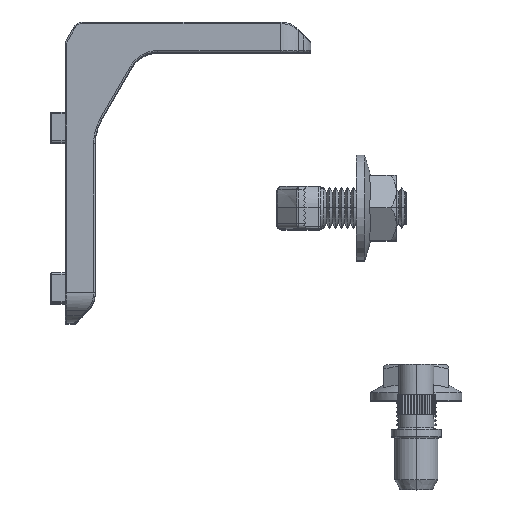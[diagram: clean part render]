
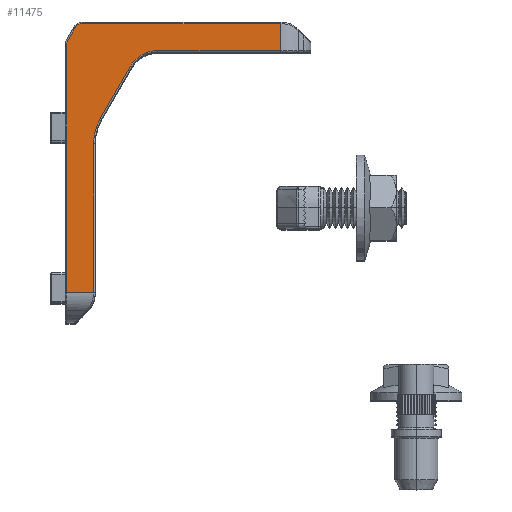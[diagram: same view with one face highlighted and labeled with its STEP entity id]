
A CAD part, top view. The second image highlights one B-rep face of the part: STEP entity #11475.
In plain terms, the highlighted planar face has unit normal (0, 0, 1).
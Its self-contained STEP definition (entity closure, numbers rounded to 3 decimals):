
#358 = CARTESIAN_POINT ( 'NONE',  ( 0.3, -4.536, 145. ) ) ;
#1768 = CARTESIAN_POINT ( 'NONE',  ( 0.528, -3.686, 145. ) ) ;
#4030 = VERTEX_POINT ( 'NONE', #135508 ) ;
#4598 = CARTESIAN_POINT ( 'NONE',  ( 0.378, -3.946, 145. ) ) ;
#4737 =( BOUNDED_CURVE ( )  B_SPLINE_CURVE ( 3, ( #95144, #84634, #43100, #116226 ),
 .UNSPECIFIED., .F., .F. ) 
 B_SPLINE_CURVE_WITH_KNOTS ( ( 4, 4 ),
 ( 0., 1. ),
 .UNSPECIFIED. ) 
 CURVE ( )  GEOMETRIC_REPRESENTATION_ITEM ( )  RATIONAL_B_SPLINE_CURVE ( ( 1., 0.911, 0.911, 1. ) ) 
 REPRESENTATION_ITEM ( '' )  );
#4861 = ORIENTED_EDGE ( 'NONE', *, *, #129784, .F. ) ;
#8316 = EDGE_CURVE ( 'NONE', #104079, #4030, #54481, .T. ) ;
#8971 = DIRECTION ( 'NONE',  ( 0., -1., 0. ) ) ;
#9731 =( BOUNDED_CURVE ( )  B_SPLINE_CURVE ( 3, ( #23862, #41475, #4598, #12024 ),
 .UNSPECIFIED., .F., .T. ) 
 B_SPLINE_CURVE_WITH_KNOTS ( ( 4, 4 ),
 ( 0., 1. ),
 .UNSPECIFIED. ) 
 CURVE ( )  GEOMETRIC_REPRESENTATION_ITEM ( )  RATIONAL_B_SPLINE_CURVE ( ( 1., 0.977, 0.977, 1. ) ) 
 REPRESENTATION_ITEM ( '' )  );
#11475 = ADVANCED_FACE ( 'NONE', ( #59647 ), #62868, .F. ) ;
#12024 = CARTESIAN_POINT ( 'NONE',  ( 0.528, -3.686, 145. ) ) ;
#12923 = CARTESIAN_POINT ( 'NONE',  ( 5.7, -53.929, 145. ) ) ;
#13303 = CARTESIAN_POINT ( 'NONE',  ( 3.464, -0.3, 145. ) ) ;
#15176 = VERTEX_POINT ( 'NONE', #86701 ) ;
#16303 = CARTESIAN_POINT ( 'NONE',  ( 0.3, -53.929, 145. ) ) ;
#16581 = ORIENTED_EDGE ( 'NONE', *, *, #31802, .F. ) ;
#19786 = EDGE_CURVE ( 'NONE', #135052, #64388, #9731, .T. ) ;
#20657 = VECTOR ( 'NONE', #123397, 1000. ) ;
#23862 = CARTESIAN_POINT ( 'NONE',  ( 0.3, -4.536, 145. ) ) ;
#27140 = LINE ( 'NONE', #56622, #106995 ) ;
#27920 = VECTOR ( 'NONE', #28146, 1000. ) ;
#28146 = DIRECTION ( 'NONE',  ( -1., 0., 0. ) ) ;
#31246 = CARTESIAN_POINT ( 'NONE',  ( 1.992, -1.15, 145. ) ) ;
#31802 = EDGE_CURVE ( 'NONE', #114550, #95243, #39457, .T. ) ;
#32792 = AXIS2_PLACEMENT_3D ( 'NONE', #54554, #54124, #53664 ) ;
#35767 = DIRECTION ( 'NONE',  ( 1., 0., 0. ) ) ;
#35773 = CARTESIAN_POINT ( 'NONE',  ( 42.929, -0.3, 145. ) ) ;
#36446 = CARTESIAN_POINT ( 'NONE',  ( 5.7, -22.449, 145. ) ) ;
#39457 =( BOUNDED_CURVE ( )  B_SPLINE_CURVE ( 3, ( #129078, #98816, #36446, #109376 ),
 .UNSPECIFIED., .F., .F. ) 
 B_SPLINE_CURVE_WITH_KNOTS ( ( 4, 4 ),
 ( 0., 1. ),
 .UNSPECIFIED. ) 
 CURVE ( )  GEOMETRIC_REPRESENTATION_ITEM ( )  RATIONAL_B_SPLINE_CURVE ( ( 1., 0.977, 0.977, 1. ) ) 
 REPRESENTATION_ITEM ( '' )  );
#40001 = CARTESIAN_POINT ( 'NONE',  ( 0.3, -60., 145. ) ) ;
#41475 = CARTESIAN_POINT ( 'NONE',  ( 0.3, -4.236, 145. ) ) ;
#43100 = CARTESIAN_POINT ( 'NONE',  ( 14.161, -6.853, 145. ) ) ;
#44854 = CARTESIAN_POINT ( 'NONE',  ( 5.7, -60., 145. ) ) ;
#48207 = EDGE_LOOP ( 'NONE', ( #67376, #119843, #49669, #93781, #132039, #73196, #89404, #117183, #4861, #16581, #117378, #59908 ) ) ;
#49669 = ORIENTED_EDGE ( 'NONE', *, *, #125848, .F. ) ;
#50458 = DIRECTION ( 'NONE',  ( 0., 1., 0. ) ) ;
#50530 = DIRECTION ( 'NONE',  ( -0.5, -0.866, 0. ) ) ;
#50796 = VERTEX_POINT ( 'NONE', #64967 ) ;
#51263 = VECTOR ( 'NONE', #8971, 1000. ) ;
#53078 = EDGE_CURVE ( 'NONE', #15176, #50796, #4737, .T. ) ;
#53582 = EDGE_CURVE ( 'NONE', #118287, #85708, #71522, .T. ) ;
#53664 = DIRECTION ( 'NONE',  ( -1., 0., 0. ) ) ;
#54124 = DIRECTION ( 'NONE',  ( 0., 0., -1. ) ) ;
#54481 = LINE ( 'NONE', #77411, #51263 ) ;
#54554 = CARTESIAN_POINT ( 'NONE',  ( 49., -60., 145. ) ) ;
#55450 = LINE ( 'NONE', #44854, #83218 ) ;
#56622 = CARTESIAN_POINT ( 'NONE',  ( 49., -0.3, 145. ) ) ;
#58870 = LINE ( 'NONE', #101058, #27920 ) ;
#59647 = FACE_OUTER_BOUND ( 'NONE', #48207, .T. ) ;
#59908 = ORIENTED_EDGE ( 'NONE', *, *, #53078, .F. ) ;
#60884 = EDGE_CURVE ( 'NONE', #123068, #135052, #68955, .T. ) ;
#61397 = EDGE_CURVE ( 'NONE', #74095, #123068, #58870, .T. ) ;
#62868 = PLANE ( 'NONE',  #32792 ) ;
#64388 = VERTEX_POINT ( 'NONE', #117140 ) ;
#64967 = CARTESIAN_POINT ( 'NONE',  ( 13.008, -8.85, 145. ) ) ;
#65839 = DIRECTION ( 'NONE',  ( 0., -1., 0. ) ) ;
#67376 = ORIENTED_EDGE ( 'NONE', *, *, #123119, .F. ) ;
#68955 = LINE ( 'NONE', #40001, #121278 ) ;
#69760 = EDGE_CURVE ( 'NONE', #50796, #114550, #106126, .T. ) ;
#71522 =( BOUNDED_CURVE ( )  B_SPLINE_CURVE ( 3, ( #31246, #72675, #135283, #104148 ),
 .UNSPECIFIED., .F., .F. ) 
 B_SPLINE_CURVE_WITH_KNOTS ( ( 4, 4 ),
 ( 0., 1. ),
 .UNSPECIFIED. ) 
 CURVE ( )  GEOMETRIC_REPRESENTATION_ITEM ( )  RATIONAL_B_SPLINE_CURVE ( ( 1., 0.911, 0.911, 1. ) ) 
 REPRESENTATION_ITEM ( '' )  );
#72675 = CARTESIAN_POINT ( 'NONE',  ( 2.303, -0.611, 145. ) ) ;
#73196 = ORIENTED_EDGE ( 'NONE', *, *, #19786, .F. ) ;
#74095 = VERTEX_POINT ( 'NONE', #12923 ) ;
#76918 = LINE ( 'NONE', #1768, #101377 ) ;
#77411 = CARTESIAN_POINT ( 'NONE',  ( 42.929, -60., 145. ) ) ;
#83218 = VECTOR ( 'NONE', #65839, 1000. ) ;
#84634 = CARTESIAN_POINT ( 'NONE',  ( 16.158, -5.7, 145. ) ) ;
#85708 = VERTEX_POINT ( 'NONE', #13303 ) ;
#86701 = CARTESIAN_POINT ( 'NONE',  ( 18.464, -5.7, 145. ) ) ;
#89404 = ORIENTED_EDGE ( 'NONE', *, *, #60884, .F. ) ;
#93781 = ORIENTED_EDGE ( 'NONE', *, *, #53582, .F. ) ;
#94825 = EDGE_CURVE ( 'NONE', #64388, #118287, #76918, .T. ) ;
#95144 = CARTESIAN_POINT ( 'NONE',  ( 18.464, -5.7, 145. ) ) ;
#95243 = VERTEX_POINT ( 'NONE', #119772 ) ;
#98816 = CARTESIAN_POINT ( 'NONE',  ( 6.171, -20.693, 145. ) ) ;
#100619 = LINE ( 'NONE', #112881, #20657 ) ;
#101058 = CARTESIAN_POINT ( 'NONE',  ( 49., -53.929, 145. ) ) ;
#101377 = VECTOR ( 'NONE', #126727, 1000. ) ;
#102701 = CARTESIAN_POINT ( 'NONE',  ( 7.08, -19.118, 145. ) ) ;
#104079 = VERTEX_POINT ( 'NONE', #35773 ) ;
#104148 = CARTESIAN_POINT ( 'NONE',  ( 3.464, -0.3, 145. ) ) ;
#106126 = LINE ( 'NONE', #123588, #134040 ) ;
#106995 = VECTOR ( 'NONE', #35767, 1000. ) ;
#109376 = CARTESIAN_POINT ( 'NONE',  ( 5.7, -24.268, 145. ) ) ;
#112881 = CARTESIAN_POINT ( 'NONE',  ( 49., -5.7, 145. ) ) ;
#114550 = VERTEX_POINT ( 'NONE', #102701 ) ;
#116226 = CARTESIAN_POINT ( 'NONE',  ( 13.008, -8.85, 145. ) ) ;
#117140 = CARTESIAN_POINT ( 'NONE',  ( 0.528, -3.686, 145. ) ) ;
#117183 = ORIENTED_EDGE ( 'NONE', *, *, #61397, .F. ) ;
#117378 = ORIENTED_EDGE ( 'NONE', *, *, #69760, .F. ) ;
#118287 = VERTEX_POINT ( 'NONE', #118666 ) ;
#118666 = CARTESIAN_POINT ( 'NONE',  ( 1.992, -1.15, 145. ) ) ;
#119772 = CARTESIAN_POINT ( 'NONE',  ( 5.7, -24.268, 145. ) ) ;
#119843 = ORIENTED_EDGE ( 'NONE', *, *, #8316, .F. ) ;
#121278 = VECTOR ( 'NONE', #50458, 1000. ) ;
#123068 = VERTEX_POINT ( 'NONE', #16303 ) ;
#123119 = EDGE_CURVE ( 'NONE', #4030, #15176, #100619, .T. ) ;
#123397 = DIRECTION ( 'NONE',  ( -1., 0., 0. ) ) ;
#123588 = CARTESIAN_POINT ( 'NONE',  ( 13.008, -8.85, 145. ) ) ;
#125848 = EDGE_CURVE ( 'NONE', #85708, #104079, #27140, .T. ) ;
#126727 = DIRECTION ( 'NONE',  ( 0.5, 0.866, 0. ) ) ;
#129078 = CARTESIAN_POINT ( 'NONE',  ( 7.08, -19.118, 145. ) ) ;
#129784 = EDGE_CURVE ( 'NONE', #95243, #74095, #55450, .T. ) ;
#132039 = ORIENTED_EDGE ( 'NONE', *, *, #94825, .F. ) ;
#134040 = VECTOR ( 'NONE', #50530, 1000. ) ;
#135052 = VERTEX_POINT ( 'NONE', #358 ) ;
#135283 = CARTESIAN_POINT ( 'NONE',  ( 2.842, -0.3, 145. ) ) ;
#135508 = CARTESIAN_POINT ( 'NONE',  ( 42.929, -5.7, 145. ) ) ;
